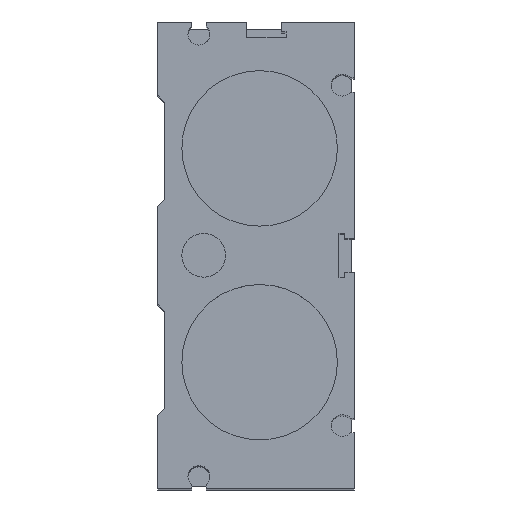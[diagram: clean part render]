
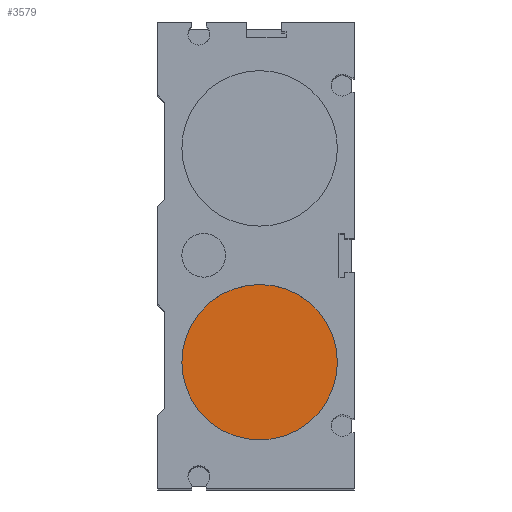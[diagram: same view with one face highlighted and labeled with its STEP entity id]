
A CAD part, top view. The second image highlights one B-rep face of the part: STEP entity #3579.
In plain terms, the highlighted planar face has unit normal (0, 0, 1).
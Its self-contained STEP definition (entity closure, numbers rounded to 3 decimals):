
#3548=CARTESIAN_POINT('',(16.0,-22.0,288.0));
#3549=VERTEX_POINT('',#3548);
#3550=CARTESIAN_POINT('',(0.,-22.0,288.0));
#3551=DIRECTION('',(0.0,0.0,1.0));
#3552=DIRECTION('',(-1.0,0.0,0.0));
#3553=AXIS2_PLACEMENT_3D('',#3550,#3551,#3552);
#3554=CIRCLE('',#3553,16.0);
#3555=EDGE_CURVE('',#3549,#3549,#3554,.T.);
#3571=CARTESIAN_POINT('',(0.,-22.0,288.0));
#3572=DIRECTION('',(0.0,0.0,-1.0));
#3573=DIRECTION('',(-1.0,0.0,0.0));
#3574=AXIS2_PLACEMENT_3D('',#3571,#3572,#3573);
#3575=PLANE('',#3574);
#3576=ORIENTED_EDGE('',*,*,#3555,.T.);
#3577=EDGE_LOOP('',(#3576));
#3578=FACE_OUTER_BOUND('',#3577,.T.);
#3579=ADVANCED_FACE('',(#3578),#3575,.F.);
